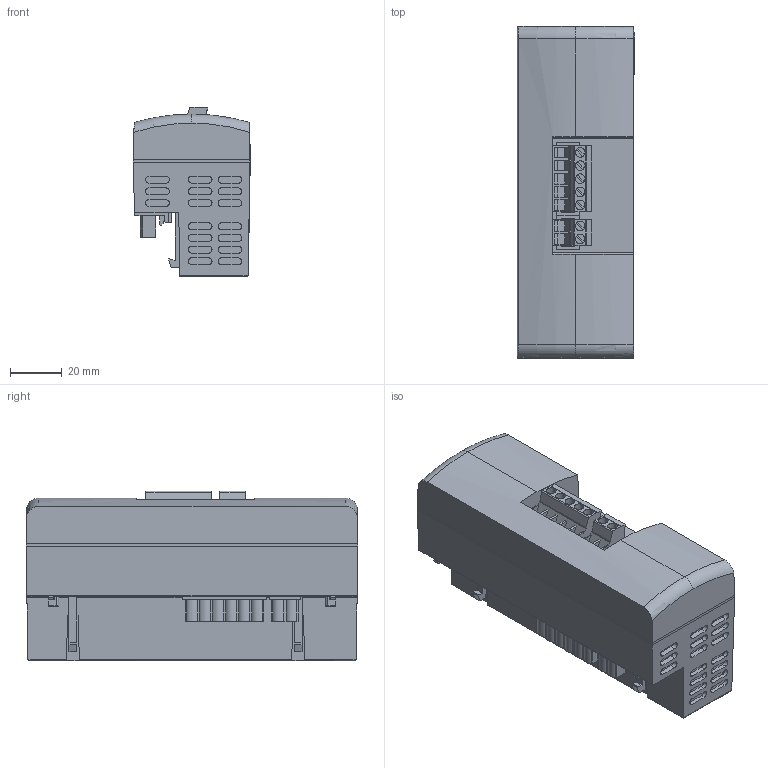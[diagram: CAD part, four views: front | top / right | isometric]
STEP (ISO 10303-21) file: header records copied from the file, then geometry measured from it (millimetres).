
FILE_DESCRIPTION( ( '' ), '1' );
FILE_NAME( '//expscmdclustefs.cadenas.external/client_exchange/iodir/jobs/output/wkb39666930_no0/STEP/ac1250_2_03_56fa68aab0d912ba39a93ed9979b71de.stp', '2011-12-01T10:32:43', ( '' ), ( '' ), ' ', ' ', ' ' );
FILE_SCHEMA( ( 'CONFIG_CONTROL_DESIGN' ) );
Length unit declared in the file: millimetre
Products named in the file (1): 1
Bounding box: 45.21 x 128.2 x 65.5 mm (x, y, z)
Volume: 281180.5 mm3; surface area: 40412.6 mm2
Topology: 1 solids, 1 shells, 752 faces, 2009 edges, 1334 vertices
Faces by surface type: plane 516, cylinder 230, torus 4, sphere 2
Entity records: 23592 total; most frequent: CARTESIAN_POINT 4240, ORIENTED_EDGE 4014, DIRECTION 3976, EDGE_CURVE 2007, LINE 1528, VECTOR 1528, VERTEX_POINT 1334, AXIS2_PLACEMENT_3D 1224
